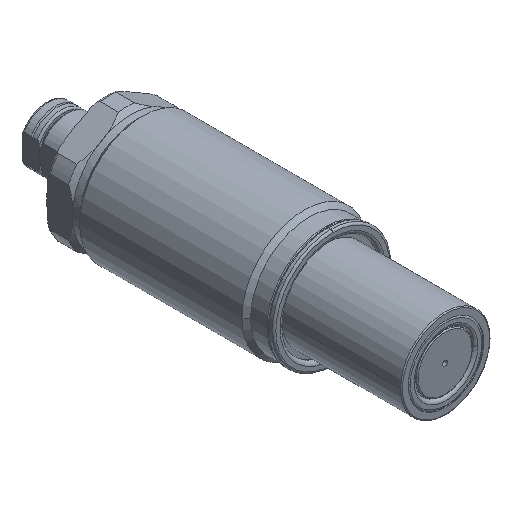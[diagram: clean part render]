
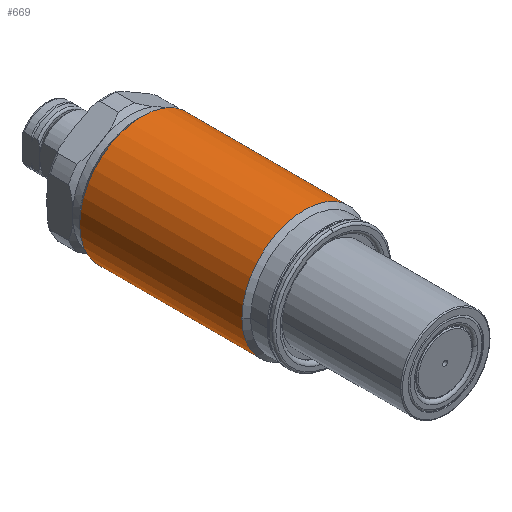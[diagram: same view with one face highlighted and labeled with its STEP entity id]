
A CAD part, isometric view. The second image highlights one B-rep face of the part: STEP entity #669.
In plain terms, the highlighted cylindrical face has radius 13 mm (diameter 26 mm), a full revolution.
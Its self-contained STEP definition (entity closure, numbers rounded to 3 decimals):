
#324=FACE_BOUND('',#1043,.T.);
#325=FACE_BOUND('',#1044,.T.);
#370=CYLINDRICAL_SURFACE('',#2920,13.);
#440=LINE('',#4584,#534);
#441=LINE('',#4587,#535);
#442=LINE('',#4589,#536);
#443=LINE('',#4594,#537);
#534=VECTOR('',#3586,1.);
#535=VECTOR('',#3589,1.);
#536=VECTOR('',#3590,1.);
#537=VECTOR('',#3593,1.);
#669=ADVANCED_FACE('',(#324,#325),#370,.T.);
#1043=EDGE_LOOP('',(#1531,#1532,#1533,#1534,#1535,#1536));
#1044=EDGE_LOOP('',(#1537,#1538,#1539,#1540,#1541,#1542));
#1531=ORIENTED_EDGE('',*,*,#2306,.T.);
#1532=ORIENTED_EDGE('',*,*,#2307,.F.);
#1533=ORIENTED_EDGE('',*,*,#2307,.T.);
#1534=ORIENTED_EDGE('',*,*,#2308,.T.);
#1535=ORIENTED_EDGE('',*,*,#2309,.F.);
#1536=ORIENTED_EDGE('',*,*,#2309,.T.);
#1537=ORIENTED_EDGE('',*,*,#2310,.F.);
#1538=ORIENTED_EDGE('',*,*,#2311,.T.);
#1539=ORIENTED_EDGE('',*,*,#2312,.T.);
#1540=ORIENTED_EDGE('',*,*,#2312,.F.);
#1541=ORIENTED_EDGE('',*,*,#2313,.T.);
#1542=ORIENTED_EDGE('',*,*,#2310,.T.);
#1998=VERTEX_POINT('',#4582);
#1999=VERTEX_POINT('',#4583);
#2000=VERTEX_POINT('',#4585);
#2001=VERTEX_POINT('',#4588);
#2002=VERTEX_POINT('',#4590);
#2003=VERTEX_POINT('',#4591);
#2004=VERTEX_POINT('',#4593);
#2005=VERTEX_POINT('',#4595);
#2306=EDGE_CURVE('',#1998,#1999,#2606,.T.);
#2307=EDGE_CURVE('',#2000,#1999,#440,.T.);
#2308=EDGE_CURVE('',#1999,#1998,#2607,.T.);
#2309=EDGE_CURVE('',#2001,#1998,#441,.T.);
#2310=EDGE_CURVE('',#2002,#2003,#442,.T.);
#2311=EDGE_CURVE('',#2002,#2004,#2608,.T.);
#2312=EDGE_CURVE('',#2004,#2005,#443,.T.);
#2313=EDGE_CURVE('',#2004,#2002,#2609,.T.);
#2606=CIRCLE('',#2916,13.);
#2607=CIRCLE('',#2917,13.);
#2608=CIRCLE('',#2918,13.);
#2609=CIRCLE('',#2919,13.);
#2916=AXIS2_PLACEMENT_3D('',#4581,#3584,#3585);
#2917=AXIS2_PLACEMENT_3D('',#4586,#3587,#3588);
#2918=AXIS2_PLACEMENT_3D('',#4592,#3591,#3592);
#2919=AXIS2_PLACEMENT_3D('',#4596,#3594,#3595);
#2920=AXIS2_PLACEMENT_3D('',#4597,#3596,#3597);
#3584=DIRECTION('',(0.,1.,0.));
#3585=DIRECTION('',(-1.,0.,0.));
#3586=DIRECTION('',(0.,-1.,0.));
#3587=DIRECTION('',(0.,1.,0.));
#3588=DIRECTION('',(-1.,0.,0.));
#3589=DIRECTION('',(0.,-1.,0.));
#3590=DIRECTION('',(0.,-1.,0.));
#3591=DIRECTION('',(0.,-1.,0.));
#3592=DIRECTION('',(-1.,0.,0.));
#3593=DIRECTION('',(0.,-1.,0.));
#3594=DIRECTION('',(0.,-1.,0.));
#3595=DIRECTION('',(-1.,0.,0.));
#3596=DIRECTION('',(0.,1.,0.));
#3597=DIRECTION('',(-1.,0.,0.));
#4581=CARTESIAN_POINT('',(0.,28.2,0.));
#4582=CARTESIAN_POINT('',(-13.,28.2,0.));
#4583=CARTESIAN_POINT('',(13.,28.2,0.));
#4584=CARTESIAN_POINT('',(13.,57.9,0.));
#4585=CARTESIAN_POINT('',(13.,53.9,0.));
#4586=CARTESIAN_POINT('',(0.,28.2,0.));
#4587=CARTESIAN_POINT('',(-13.,57.9,0.));
#4588=CARTESIAN_POINT('',(-13.,53.9,0.));
#4589=CARTESIAN_POINT('',(-13.,57.9,0.));
#4590=CARTESIAN_POINT('',(-13.,61.9,0.));
#4591=CARTESIAN_POINT('',(-13.,59.9,0.));
#4592=CARTESIAN_POINT('',(0.,61.9,0.));
#4593=CARTESIAN_POINT('',(13.,61.9,0.));
#4594=CARTESIAN_POINT('',(13.,57.9,0.));
#4595=CARTESIAN_POINT('',(13.,59.9,0.));
#4596=CARTESIAN_POINT('',(0.,61.9,0.));
#4597=CARTESIAN_POINT('',(0.,57.9,0.));
